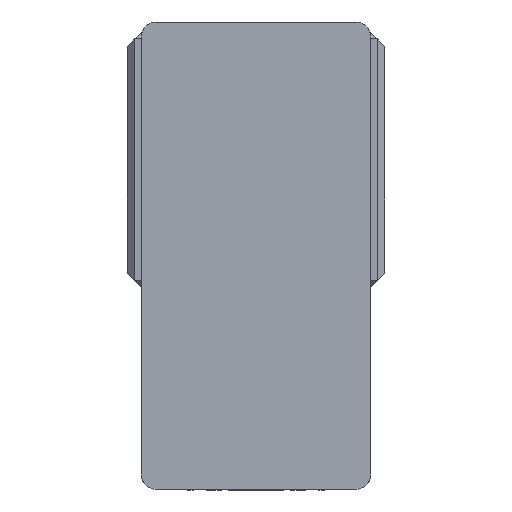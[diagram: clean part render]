
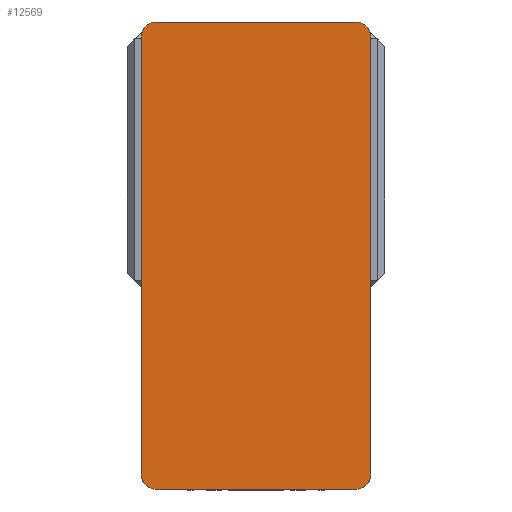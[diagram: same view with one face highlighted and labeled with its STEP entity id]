
A CAD part, left-side view. The second image highlights one B-rep face of the part: STEP entity #12569.
In plain terms, the highlighted planar face has unit normal (-1, 0, 0) as drawn and (0, 0, 1) by its records, which use the part's own axes.
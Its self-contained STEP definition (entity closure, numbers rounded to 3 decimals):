
#454 = LINE ( 'NONE', #10387, #12945 ) ;
#892 = CARTESIAN_POINT ( 'NONE',  ( 65., 142.5, 105. ) ) ;
#1083 = CARTESIAN_POINT ( 'NONE',  ( -65., -142.5, 105. ) ) ;
#1545 = EDGE_CURVE ( 'NONE', #14624, #13400, #9747, .T. ) ;
#2435 = CARTESIAN_POINT ( 'NONE',  ( 75., -142.5, 105. ) ) ;
#2482 = DIRECTION ( 'NONE',  ( 1., 0., 0. ) ) ;
#2506 = VECTOR ( 'NONE', #14886, 1000. ) ;
#2674 = DIRECTION ( 'NONE',  ( 1., 0., 0. ) ) ;
#2898 = CARTESIAN_POINT ( 'NONE',  ( -75., 142.5, 105. ) ) ;
#3328 = EDGE_CURVE ( 'NONE', #7158, #14624, #19212, .T. ) ;
#3368 = CARTESIAN_POINT ( 'NONE',  ( 65., 152.5, 105. ) ) ;
#3416 = EDGE_CURVE ( 'NONE', #19651, #16979, #10910, .T. ) ;
#4172 = DIRECTION ( 'NONE',  ( 1., 0., 0. ) ) ;
#4804 = ORIENTED_EDGE ( 'NONE', *, *, #5454, .T. ) ;
#4914 = CIRCLE ( 'NONE', #12329, 10. ) ;
#4946 = CARTESIAN_POINT ( 'NONE',  ( 75., 142.5, 105. ) ) ;
#5165 = DIRECTION ( 'NONE',  ( 0., 0., 1. ) ) ;
#5454 = EDGE_CURVE ( 'NONE', #6788, #19651, #6646, .T. ) ;
#5947 = PLANE ( 'NONE',  #11593 ) ;
#5988 = DIRECTION ( 'NONE',  ( -1., 0., 0. ) ) ;
#6221 = DIRECTION ( 'NONE',  ( 0., 0., 1. ) ) ;
#6468 = CARTESIAN_POINT ( 'NONE',  ( 75., 152.5, 105. ) ) ;
#6600 = CIRCLE ( 'NONE', #19163, 10. ) ;
#6646 = LINE ( 'NONE', #19663, #2506 ) ;
#6788 = VERTEX_POINT ( 'NONE', #2898 ) ;
#7158 = VERTEX_POINT ( 'NONE', #4946 ) ;
#7380 = FACE_OUTER_BOUND ( 'NONE', #12369, .T. ) ;
#7516 = CARTESIAN_POINT ( 'NONE',  ( 0., 0., 105. ) ) ;
#8033 = DIRECTION ( 'NONE',  ( 0., 1., 0. ) ) ;
#8068 = ORIENTED_EDGE ( 'NONE', *, *, #1545, .T. ) ;
#8192 = EDGE_CURVE ( 'NONE', #8545, #18976, #4914, .T. ) ;
#8545 = VERTEX_POINT ( 'NONE', #11866 ) ;
#9097 = DIRECTION ( 'NONE',  ( 1., 0., 0. ) ) ;
#9747 = LINE ( 'NONE', #15294, #17566 ) ;
#10015 = CARTESIAN_POINT ( 'NONE',  ( -65., -152.5, 105. ) ) ;
#10387 = CARTESIAN_POINT ( 'NONE',  ( -75., -152.5, 105. ) ) ;
#10431 = EDGE_CURVE ( 'NONE', #16979, #8545, #454, .T. ) ;
#10813 = ORIENTED_EDGE ( 'NONE', *, *, #3416, .T. ) ;
#10910 = CIRCLE ( 'NONE', #20227, 10. ) ;
#10967 = EDGE_CURVE ( 'NONE', #18976, #7158, #16242, .T. ) ;
#11080 = VECTOR ( 'NONE', #8033, 1000. ) ;
#11593 = AXIS2_PLACEMENT_3D ( 'NONE', #7516, #18444, #9097 ) ;
#11855 = DIRECTION ( 'NONE',  ( 0., 0., 1. ) ) ;
#11866 = CARTESIAN_POINT ( 'NONE',  ( 65., -152.5, 105. ) ) ;
#12056 = DIRECTION ( 'NONE',  ( 0., 0., 1. ) ) ;
#12329 = AXIS2_PLACEMENT_3D ( 'NONE', #14526, #5165, #16096 ) ;
#12369 = EDGE_LOOP ( 'NONE', ( #18878, #13762, #19705, #19668, #8068, #19570, #4804, #10813 ) ) ;
#12569 = ADVANCED_FACE ( 'NONE', ( #7380 ), #5947, .T. ) ;
#12945 = VECTOR ( 'NONE', #4172, 1000. ) ;
#13400 = VERTEX_POINT ( 'NONE', #17310 ) ;
#13762 = ORIENTED_EDGE ( 'NONE', *, *, #8192, .T. ) ;
#14047 = EDGE_CURVE ( 'NONE', #13400, #6788, #6600, .T. ) ;
#14526 = CARTESIAN_POINT ( 'NONE',  ( 65., -142.5, 105. ) ) ;
#14624 = VERTEX_POINT ( 'NONE', #3368 ) ;
#14886 = DIRECTION ( 'NONE',  ( 0., -1., 0. ) ) ;
#15294 = CARTESIAN_POINT ( 'NONE',  ( -75., 152.5, 105. ) ) ;
#15598 = CARTESIAN_POINT ( 'NONE',  ( -65., 142.5, 105. ) ) ;
#16076 = AXIS2_PLACEMENT_3D ( 'NONE', #892, #11855, #2482 ) ;
#16096 = DIRECTION ( 'NONE',  ( 1., 0., 0. ) ) ;
#16242 = LINE ( 'NONE', #6468, #11080 ) ;
#16979 = VERTEX_POINT ( 'NONE', #10015 ) ;
#17166 = DIRECTION ( 'NONE',  ( 1., 0., 0. ) ) ;
#17310 = CARTESIAN_POINT ( 'NONE',  ( -65., 152.5, 105. ) ) ;
#17566 = VECTOR ( 'NONE', #5988, 1000. ) ;
#17644 = CARTESIAN_POINT ( 'NONE',  ( -75., -142.5, 105. ) ) ;
#18444 = DIRECTION ( 'NONE',  ( 0., 0., 1. ) ) ;
#18878 = ORIENTED_EDGE ( 'NONE', *, *, #10431, .T. ) ;
#18976 = VERTEX_POINT ( 'NONE', #2435 ) ;
#19163 = AXIS2_PLACEMENT_3D ( 'NONE', #15598, #6221, #17166 ) ;
#19212 = CIRCLE ( 'NONE', #16076, 10. ) ;
#19570 = ORIENTED_EDGE ( 'NONE', *, *, #14047, .T. ) ;
#19651 = VERTEX_POINT ( 'NONE', #17644 ) ;
#19663 = CARTESIAN_POINT ( 'NONE',  ( -75., 152.5, 105. ) ) ;
#19668 = ORIENTED_EDGE ( 'NONE', *, *, #3328, .T. ) ;
#19705 = ORIENTED_EDGE ( 'NONE', *, *, #10967, .T. ) ;
#20227 = AXIS2_PLACEMENT_3D ( 'NONE', #1083, #12056, #2674 ) ;
